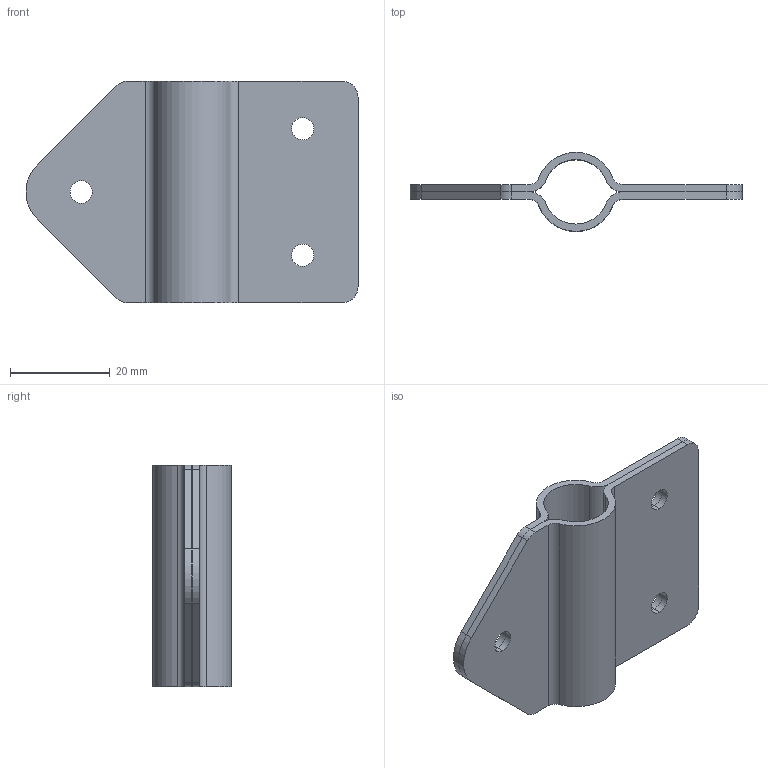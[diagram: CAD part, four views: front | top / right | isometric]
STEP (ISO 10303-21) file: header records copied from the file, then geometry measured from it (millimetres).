
FILE_DESCRIPTION (( 'STEP AP214' ), '1' );
FILE_NAME ('DRP-002-0111-00.STEP', '2010-08-12T17:32:07', ( '' ), ( '' ), 'SwSTEP 2.0', 'SolidWorks 2010', '' );
FILE_SCHEMA (( 'AUTOMOTIVE_DESIGN' ));
Length unit declared in the file: inch
Products named in the file (1): DRP-002-0111-00
Bounding box: 66.65 x 15.88 x 44.45 mm (x, y, z)
Volume: 8148.2 mm3; surface area: 11887.1 mm2
Topology: 2 solids, 2 shells, 52 faces, 144 edges, 96 vertices
Faces by surface type: cylinder 34, plane 18
Entity records: 1823 total; most frequent: DIRECTION 318, CARTESIAN_POINT 293, ORIENTED_EDGE 288, EDGE_CURVE 144, AXIS2_PLACEMENT_3D 121, VERTEX_POINT 96, VECTOR 76, LINE 76
